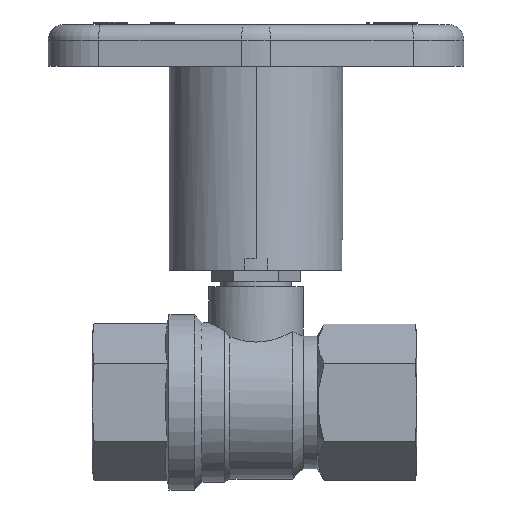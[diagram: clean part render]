
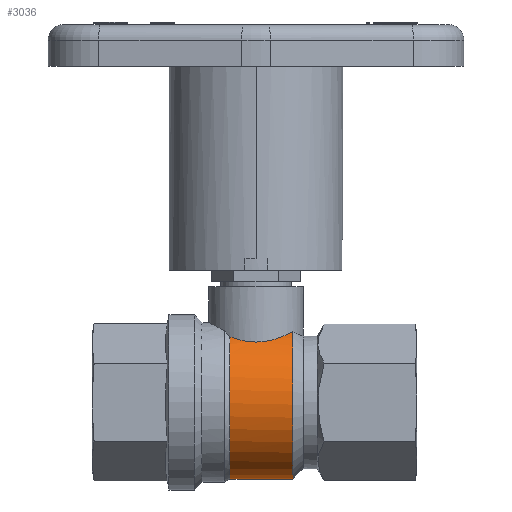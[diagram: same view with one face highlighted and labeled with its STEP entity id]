
A CAD part, front view. The second image highlights one B-rep face of the part: STEP entity #3036.
In plain terms, the highlighted cylindrical face has radius 34.867 mm (diameter 69.735 mm), a partial arc.
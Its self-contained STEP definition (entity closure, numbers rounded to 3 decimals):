
#3036 = ADVANCED_FACE('',(#3037),#3060,.T.);
#3037 = FACE_BOUND('',#3038,.T.);
#3038 = EDGE_LOOP('',(#3039,#3093,#3110,#3158));
#3039 = ORIENTED_EDGE('',*,*,#3040,.T.);
#3040 = EDGE_CURVE('',#3041,#3043,#3045,.T.);
#3041 = VERTEX_POINT('',#3042);
#3042 = CARTESIAN_POINT('',(-604.005,-56.07,
    30.536));
#3043 = VERTEX_POINT('',#3044);
#3044 = CARTESIAN_POINT('',(-575.458,-60.445,
    32.764));
#3045 = SURFACE_CURVE('',#3046,(#3059),.PCURVE_S1.);
#3046 = B_SPLINE_CURVE_WITH_KNOTS('',3,(#3047,#3048,#3049,#3050,#3051,
    #3052,#3053,#3054,#3055,#3056,#3057,#3058),.UNSPECIFIED.,.F.,.F.,(4,
    2,2,2,2,4),(0.831,0.97,1.109,
    1.249,1.388,1.526),.UNSPECIFIED.);
#3047 = CARTESIAN_POINT('',(-607.376,-58.819,
    32.026));
#3048 = CARTESIAN_POINT('',(-605.499,-56.943,
    31.115));
#3049 = CARTESIAN_POINT('',(-603.132,-55.305,
    30.093));
#3050 = CARTESIAN_POINT('',(-597.866,-53.09,
    28.559));
#3051 = CARTESIAN_POINT('',(-594.957,-52.513,
    28.084));
#3052 = CARTESIAN_POINT('',(-589.345,-52.513,28.084
    ));
#3053 = CARTESIAN_POINT('',(-586.435,-53.09,
    28.559));
#3054 = CARTESIAN_POINT('',(-581.169,-55.305,
    30.093));
#3055 = CARTESIAN_POINT('',(-578.802,-56.943,
    31.115));
#3056 = CARTESIAN_POINT('',(-575.063,-60.682,
    32.93));
#3057 = CARTESIAN_POINT('',(-573.416,-63.053,
    33.86));
#3058 = CARTESIAN_POINT('',(-572.304,-65.696,
    34.512));
#3059 = PCURVE('',#3060,#3065);
#3060 = CYLINDRICAL_SURFACE('',#3061,34.867);
#3061 = AXIS2_PLACEMENT_3D('',#3062,#3063,#3064);
#3062 = CARTESIAN_POINT('',(-570.74,-74.044,
    0.658));
#3063 = DIRECTION('',(-1.,0.,0.));
#3064 = DIRECTION('',(0.,-1.,0.));
#3065 = DEFINITIONAL_REPRESENTATION('',(#3066),#3092);
#3066 = B_SPLINE_CURVE_WITH_KNOTS('',3,(#3067,#3068,#3069,#3070,#3071,
    #3072,#3073,#3074,#3075,#3076,#3077,#3078,#3079,#3080,#3081,#3082,
    #3083,#3084,#3085,#3086,#3087,#3088,#3089,#3090,#3091),
  .UNSPECIFIED.,.F.,.F.,(4,1,1,1,1,1,1,1,1,1,1,1,1,1,1,1,1,1,1,1,1,1,4),
  (0.905,0.929,0.952,0.976,
    1.,1.023,1.047,1.07,
    1.094,1.118,1.141,1.165,
    1.189,1.212,1.236,1.26,
    1.283,1.307,1.331,1.354,
    1.378,1.402,1.425),.QUASI_UNIFORM_KNOTS.);
#3067 = CARTESIAN_POINT('',(2.112,33.262));
#3068 = CARTESIAN_POINT('',(2.121,32.866));
#3069 = CARTESIAN_POINT('',(2.138,32.051));
#3070 = CARTESIAN_POINT('',(2.161,30.771));
#3071 = CARTESIAN_POINT('',(2.182,29.44));
#3072 = CARTESIAN_POINT('',(2.199,28.064));
#3073 = CARTESIAN_POINT('',(2.213,26.654));
#3074 = CARTESIAN_POINT('',(2.224,25.221));
#3075 = CARTESIAN_POINT('',(2.232,23.776));
#3076 = CARTESIAN_POINT('',(2.236,22.33));
#3077 = CARTESIAN_POINT('',(2.237,20.9));
#3078 = CARTESIAN_POINT('',(2.234,19.457));
#3079 = CARTESIAN_POINT('',(2.227,18.011));
#3080 = CARTESIAN_POINT('',(2.217,16.574));
#3081 = CARTESIAN_POINT('',(2.203,15.156));
#3082 = CARTESIAN_POINT('',(2.187,13.769));
#3083 = CARTESIAN_POINT('',(2.167,12.424));
#3084 = CARTESIAN_POINT('',(2.145,11.129));
#3085 = CARTESIAN_POINT('',(2.12,9.89));
#3086 = CARTESIAN_POINT('',(2.093,8.713));
#3087 = CARTESIAN_POINT('',(2.065,7.605));
#3088 = CARTESIAN_POINT('',(2.035,6.573));
#3089 = CARTESIAN_POINT('',(2.005,5.622));
#3090 = CARTESIAN_POINT('',(1.983,5.018));
#3091 = CARTESIAN_POINT('',(1.971,4.72));
#3092 = ( GEOMETRIC_REPRESENTATION_CONTEXT(2) 
PARAMETRIC_REPRESENTATION_CONTEXT() REPRESENTATION_CONTEXT('2D SPACE',''
  ) );
#3093 = ORIENTED_EDGE('',*,*,#3094,.T.);
#3094 = EDGE_CURVE('',#3043,#3095,#3097,.T.);
#3095 = VERTEX_POINT('',#3096);
#3096 = CARTESIAN_POINT('',(-575.458,-87.644,
    32.764));
#3097 = SURFACE_CURVE('',#3098,(#3103),.PCURVE_S1.);
#3098 = CIRCLE('',#3099,34.867);
#3099 = AXIS2_PLACEMENT_3D('',#3100,#3101,#3102);
#3100 = CARTESIAN_POINT('',(-575.458,-74.044,
    0.658));
#3101 = DIRECTION('',(-1.,0.,0.));
#3102 = DIRECTION('',(0.,-1.,0.));
#3103 = PCURVE('',#3060,#3104);
#3104 = DEFINITIONAL_REPRESENTATION('',(#3105),#3109);
#3105 = LINE('',#3106,#3107);
#3106 = CARTESIAN_POINT('',(0.,4.718));
#3107 = VECTOR('',#3108,1.);
#3108 = DIRECTION('',(1.,0.));
#3109 = ( GEOMETRIC_REPRESENTATION_CONTEXT(2) 
PARAMETRIC_REPRESENTATION_CONTEXT() REPRESENTATION_CONTEXT('2D SPACE',''
  ) );
#3110 = ORIENTED_EDGE('',*,*,#3111,.T.);
#3111 = EDGE_CURVE('',#3095,#3112,#3114,.T.);
#3112 = VERTEX_POINT('',#3113);
#3113 = CARTESIAN_POINT('',(-604.005,-92.019,
    30.536));
#3114 = SURFACE_CURVE('',#3115,(#3129),.PCURVE_S1.);
#3115 = B_SPLINE_CURVE_WITH_KNOTS('',3,(#3116,#3117,#3118,#3119,#3120,
    #3121,#3122,#3123,#3124,#3125,#3126,#3127,#3128),.UNSPECIFIED.,.F.,
  .F.,(4,2,2,3,2,4),(-0.417,-0.278,-0.139,0.,
    0.139,0.278),.UNSPECIFIED.);
#3116 = CARTESIAN_POINT('',(-572.304,-82.393,
    34.512));
#3117 = CARTESIAN_POINT('',(-573.416,-85.036,
    33.86));
#3118 = CARTESIAN_POINT('',(-575.063,-87.407,
    32.93));
#3119 = CARTESIAN_POINT('',(-578.802,-91.146,
    31.115));
#3120 = CARTESIAN_POINT('',(-581.169,-92.784,
    30.093));
#3121 = CARTESIAN_POINT('',(-586.435,-94.999,
    28.559));
#3122 = CARTESIAN_POINT('',(-589.345,-95.576,28.084
    ));
#3123 = CARTESIAN_POINT('',(-592.151,-95.576,
    28.084));
#3124 = CARTESIAN_POINT('',(-594.957,-95.576,
    28.084));
#3125 = CARTESIAN_POINT('',(-597.866,-94.999,
    28.559));
#3126 = CARTESIAN_POINT('',(-603.132,-92.784,
    30.093));
#3127 = CARTESIAN_POINT('',(-605.499,-91.146,
    31.115));
#3128 = CARTESIAN_POINT('',(-607.376,-89.269,
    32.026));
#3129 = PCURVE('',#3060,#3130);
#3130 = DEFINITIONAL_REPRESENTATION('',(#3131),#3157);
#3131 = B_SPLINE_CURVE_WITH_KNOTS('',3,(#3132,#3133,#3134,#3135,#3136,
    #3137,#3138,#3139,#3140,#3141,#3142,#3143,#3144,#3145,#3146,#3147,
    #3148,#3149,#3150,#3151,#3152,#3153,#3154,#3155,#3156),
  .UNSPECIFIED.,.F.,.F.,(4,1,1,1,1,1,1,1,1,1,1,1,1,1,1,1,1,1,1,1,1,1,4),
  (-0.316,-0.292,-0.269,-0.245,
    -0.221,-0.198,-0.174,-0.15,
    -0.127,-0.103,-0.079,
    -0.056,-0.032,-0.008,
    0.015,0.039,0.063,
    0.086,0.11,0.133,0.157,
    0.181,0.204),.UNSPECIFIED.);
#3132 = CARTESIAN_POINT('',(7.453,4.72));
#3133 = CARTESIAN_POINT('',(7.442,5.018));
#3134 = CARTESIAN_POINT('',(7.42,5.622));
#3135 = CARTESIAN_POINT('',(7.389,6.573));
#3136 = CARTESIAN_POINT('',(7.36,7.605));
#3137 = CARTESIAN_POINT('',(7.331,8.713));
#3138 = CARTESIAN_POINT('',(7.305,9.89));
#3139 = CARTESIAN_POINT('',(7.28,11.129));
#3140 = CARTESIAN_POINT('',(7.258,12.424));
#3141 = CARTESIAN_POINT('',(7.238,13.769));
#3142 = CARTESIAN_POINT('',(7.221,15.156));
#3143 = CARTESIAN_POINT('',(7.208,16.574));
#3144 = CARTESIAN_POINT('',(7.198,18.011));
#3145 = CARTESIAN_POINT('',(7.191,19.457));
#3146 = CARTESIAN_POINT('',(7.188,20.9));
#3147 = CARTESIAN_POINT('',(7.189,22.33));
#3148 = CARTESIAN_POINT('',(7.193,23.776));
#3149 = CARTESIAN_POINT('',(7.2,25.221));
#3150 = CARTESIAN_POINT('',(7.211,26.654));
#3151 = CARTESIAN_POINT('',(7.226,28.064));
#3152 = CARTESIAN_POINT('',(7.243,29.44));
#3153 = CARTESIAN_POINT('',(7.264,30.771));
#3154 = CARTESIAN_POINT('',(7.287,32.051));
#3155 = CARTESIAN_POINT('',(7.304,32.866));
#3156 = CARTESIAN_POINT('',(7.312,33.262));
#3157 = ( GEOMETRIC_REPRESENTATION_CONTEXT(2) 
PARAMETRIC_REPRESENTATION_CONTEXT() REPRESENTATION_CONTEXT('2D SPACE',''
  ) );
#3158 = ORIENTED_EDGE('',*,*,#3159,.F.);
#3159 = EDGE_CURVE('',#3041,#3112,#3160,.T.);
#3160 = SURFACE_CURVE('',#3161,(#3166),.PCURVE_S1.);
#3161 = CIRCLE('',#3162,34.867);
#3162 = AXIS2_PLACEMENT_3D('',#3163,#3164,#3165);
#3163 = CARTESIAN_POINT('',(-604.005,-74.044,
    0.658));
#3164 = DIRECTION('',(-1.,0.,0.));
#3165 = DIRECTION('',(0.,-1.,0.));
#3166 = PCURVE('',#3060,#3167);
#3167 = DEFINITIONAL_REPRESENTATION('',(#3168),#3172);
#3168 = LINE('',#3169,#3170);
#3169 = CARTESIAN_POINT('',(0.,33.265));
#3170 = VECTOR('',#3171,1.);
#3171 = DIRECTION('',(1.,0.));
#3172 = ( GEOMETRIC_REPRESENTATION_CONTEXT(2) 
PARAMETRIC_REPRESENTATION_CONTEXT() REPRESENTATION_CONTEXT('2D SPACE',''
  ) );
